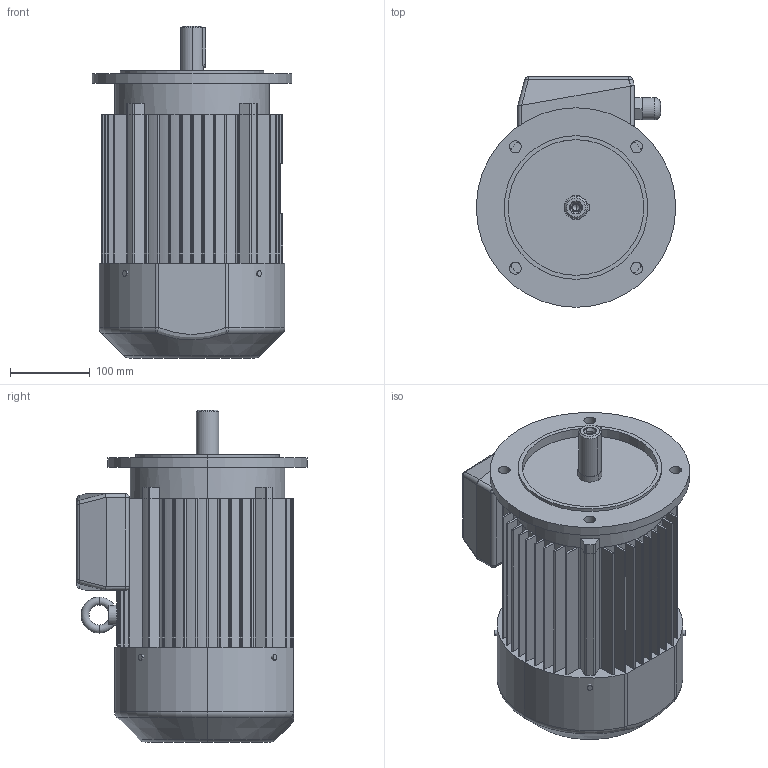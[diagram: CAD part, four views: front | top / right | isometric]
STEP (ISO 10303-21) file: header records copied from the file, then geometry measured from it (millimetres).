
FILE_DESCRIPTION (( 'STEP AP203' ), '1' );
FILE_NAME ('2SIEK112M4.STEP', '2012-10-26T12:38:37', ( 'INDUKTA' ), ( 'CANTONI MOTOR' ), 'SwSTEP 2.0', 'SolidWorks 2003064', '' );
FILE_SCHEMA (( 'CONFIG_CONTROL_DESIGN' ));
Length unit declared in the file: millimetre
Products named in the file (1): 2SIEK112M4
Bounding box: 250 x 289 x 416 mm (x, y, z)
Volume: 13424736.7 mm3; surface area: 779586.5 mm2
Topology: 12 solids, 12 shells, 417 faces, 1124 edges, 718 vertices
Faces by surface type: cylinder 196, plane 185, torus 13, cone 12, sphere 10, bspline 1
Entity records: 14002 total; most frequent: CARTESIAN_POINT 3283, DIRECTION 2307, ORIENTED_EDGE 2224, EDGE_CURVE 1112, AXIS2_PLACEMENT_3D 829, VERTEX_POINT 718, LINE 649, VECTOR 649
